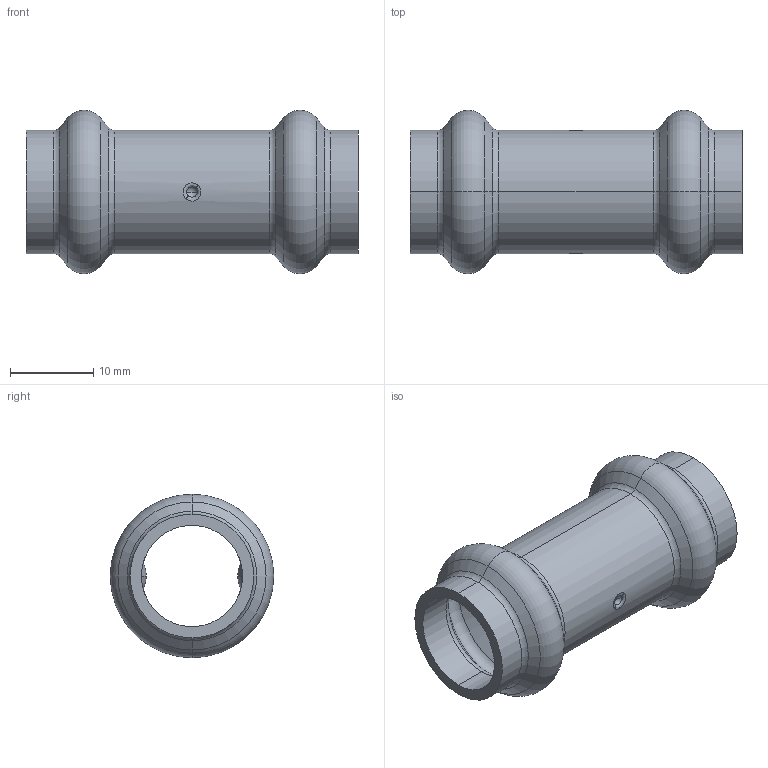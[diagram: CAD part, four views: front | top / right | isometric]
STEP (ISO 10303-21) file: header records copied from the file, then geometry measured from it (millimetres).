
FILE_DESCRIPTION (( 'STEP AP203' ), '1' );
FILE_NAME ('SP5270 12.STEP', '2017-04-24T09:16:40', ( '' ), ( '' ), 'SwSTEP 2.0', 'SolidWorks 2016', '' );
FILE_SCHEMA (( 'CONFIG_CONTROL_DESIGN' ));
Length unit declared in the file: millimetre
Products named in the file (1): SP5270 12
Bounding box: 40 x 19.7 x 19.7 mm (x, y, z)
Volume: 2723.2 mm3; surface area: 4122.8 mm2
Topology: 1 solids, 1 shells, 66 faces, 136 edges, 76 vertices
Faces by surface type: torus 24, cone 16, cylinder 12, sphere 8, bspline 4, plane 2
Entity records: 2161 total; most frequent: CARTESIAN_POINT 667, DIRECTION 338, ORIENTED_EDGE 272, AXIS2_PLACEMENT_3D 155, EDGE_CURVE 136, CIRCLE 92, VERTEX_POINT 76, EDGE_LOOP 72
